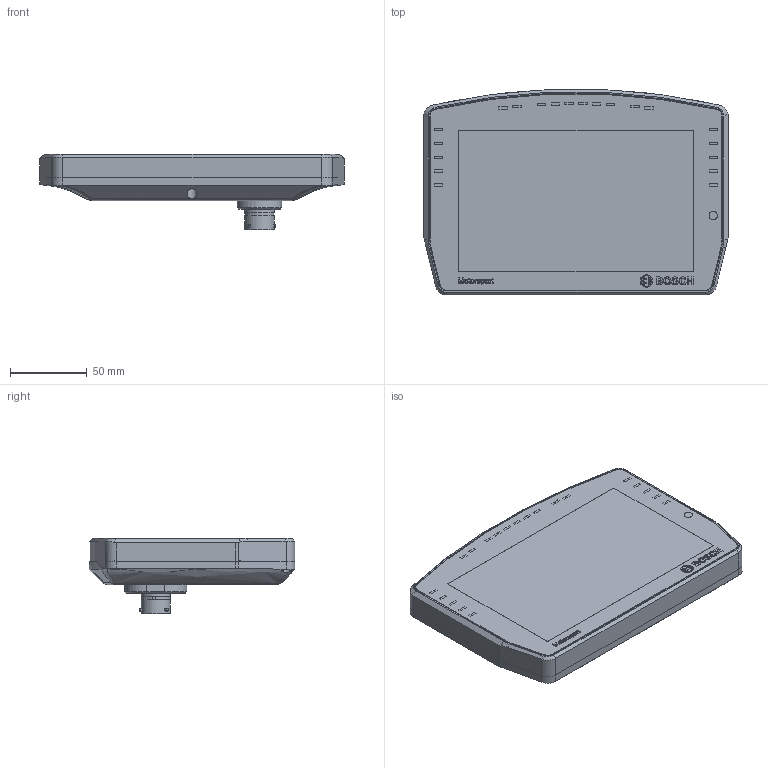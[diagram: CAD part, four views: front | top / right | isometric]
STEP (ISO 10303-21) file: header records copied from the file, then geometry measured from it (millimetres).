
FILE_DESCRIPTION(/* description */ (''),/* implementation_level */ '2;1');
FILE_NAME(/* name */ 'F02UA02660-02_MOD_01.stp',/* time_stamp */ '2021-10-04T13:48:08+02:00',/* author */ (''),/* organization */ (''),/* preprocessor_version */ 'ST-DEVELOPER v16.7',/* originating_system */ 'SIEMENS PLM Software NX 1946',/* authorisation */ '');
FILE_SCHEMA (('AUTOMOTIVE_DESIGN { 1 0 10303 214 3 1 1 1 }'));
Products named in the file (13): f02ue01551_01.001-CONNECTOR; f02u000950_01.001-COUNTERSUNK-HEAD SCREW; f02u004604_02.001-HOUSING TROUGH; F02U004605-03.001-FRONT DISC; f02u004318_01.002-DISPLAY FRAME; f02u004158_01.003-STICKER; f02ub01011_01.001-SEALING ROUND CORD; f02u000901_01.001-LENS HEAD SCREW; f02ux00124_01.001-CIRCUIT BOARD_SOLID_AGZ; F02UB00994-02.001-SUBASSEMBLY_SOLID_AGZ; f02ub00981_01.001-SUBASSEMBLY_SOLID_AGZ; F02UV02660-02.001-DISPLAY_SOLID_AGZ; F02UA02660-02.001-DISPLAY
Assembly tree (21 placements, depth 5):
  F02UA02660-02.001-DISPLAY
    F02UV02660-02.001-DISPLAY_SOLID_AGZ
      f02ub00981_01.001-SUBASSEMBLY_SOLID_AGZ
        f02u004318_01.002-DISPLAY FRAME
        F02U004605-03.001-FRONT DISC
      F02UB00994-02.001-SUBASSEMBLY_SOLID_AGZ
        f02u004604_02.001-HOUSING TROUGH
        f02ux00124_01.001-CIRCUIT BOARD_SOLID_AGZ
          f02ue01551_01.001-CONNECTOR
        f02u000950_01.001-COUNTERSUNK-HEAD SCREW  x2
      f02u000901_01.001-LENS HEAD SCREW  x9
      f02ub01011_01.001-SEALING ROUND CORD
      f02u004158_01.003-STICKER
Bounding box: 198 x 133.83 x 49.13 mm (x, y, z)
Volume: 152721.1 mm3; surface area: 162197.8 mm2
Topology: 38 solids, 38 shells, 2101 faces, 5315 edges, 3482 vertices
Faces by surface type: plane 1053, cylinder 573, extrusion 245, cone 104, bspline 57, torus 52, sphere 17
Full cylindrical faces by diameter (mm): 0.5 x22, 0.74 x44, 0.788 x11, 1 x2, 2 x3, 2.5 x19, 3 x11, 3.2 x4, 3.3 x3, 3.4 x9, 4.045 x1, 4.545 x1, 5.5 x22, 5.7 x9, 6.4 x9, 6.5 x2, 6.667 x1, 7 x2, 8 x1, 17.44 x1, 18.65 x2, 18.85 x1, 19.05 x2, 21.9 x1
Entity records: 71888 total; most frequent: CARTESIAN_POINT 20624, ORIENTED_EDGE 8894, DIRECTION 7323, EDGE_CURVE 4447, VERTEX_POINT 3079, AXIS2_PLACEMENT_3D 2635, EDGE_LOOP 2424, VECTOR 2053
